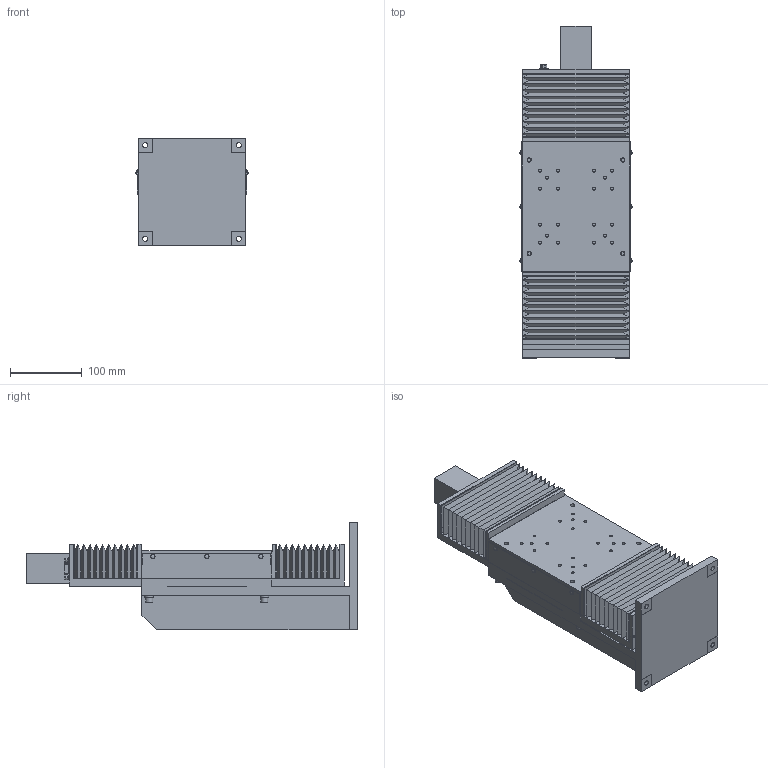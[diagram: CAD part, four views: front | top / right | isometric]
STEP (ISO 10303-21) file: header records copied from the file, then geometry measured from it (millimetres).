
FILE_DESCRIPTION (( 'STEP AP203' ), '1' );
FILE_NAME ('ALZ-510-H2PB.STEP', '2008-03-11T09:27:31', ( '' ), ( '' ), 'SwSTEP 2.0', 'SolidWorks 2007', '' );
FILE_SCHEMA (( 'CONFIG_CONTROL_DESIGN' ));
Length unit declared in the file: millimetre
Products named in the file (5): ALZ-510-H2PB; ALZ-510-H2PB-1_蹬怮椔; ALZ-510-H2PB-4_蹬怮椔; ALZ-510-H2PB-3_蹬怮椔; ALZ-510-H2PB-2_蹬怮椔
Assembly tree (4 placements, depth 2):
  ALZ-510-H2PB
    ALZ-510-H2PB-1_蹬怮椔
    ALZ-510-H2PB-3_蹬怮椔
    ALZ-510-H2PB-2_蹬怮椔
    ALZ-510-H2PB-4_蹬怮椔
Bounding box: 155.65 x 461 x 150 mm (x, y, z)
Volume: 3197479.2 mm3; surface area: 660735.5 mm2
Topology: 4 solids, 9 shells, 746 faces, 1859 edges, 1208 vertices
Faces by surface type: plane 465, cylinder 251, cone 16, bspline 6, sphere 4, torus 4
Entity records: 24020 total; most frequent: CARTESIAN_POINT 5062, DIRECTION 3877, ORIENTED_EDGE 3718, EDGE_CURVE 1859, LINE 1311, VECTOR 1311, AXIS2_PLACEMENT_3D 1283, VERTEX_POINT 1208
